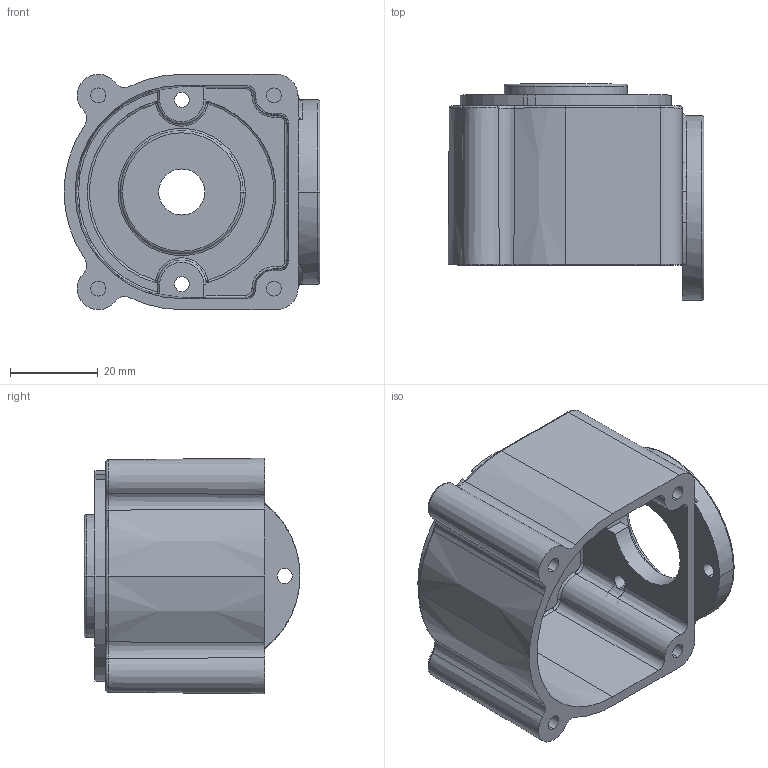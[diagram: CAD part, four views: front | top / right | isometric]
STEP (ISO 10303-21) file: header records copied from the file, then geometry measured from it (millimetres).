
FILE_DESCRIPTION (( 'STEP AP214' ), '1' );
FILE_NAME ('PRT0001.step', '2025-12-23T15:53:22', ( '' ), ( '' ), 'SwSTEP 2.0', 'SolidWorks 2026', '' );
FILE_SCHEMA (( 'AUTOMOTIVE_DESIGN' ));
Length unit declared in the file: inch
Products named in the file (1): PRT0001
Bounding box: 58.32 x 49.2 x 53.63 mm (x, y, z)
Volume: 34828.2 mm3; surface area: 21617.1 mm2
Topology: 1 solids, 1 shells, 175 faces, 445 edges, 271 vertices
Faces by surface type: cylinder 59, plane 36, torus 34, cone 26, bspline 16, sphere 4
Entity records: 6329 total; most frequent: CARTESIAN_POINT 2154, DIRECTION 911, ORIENTED_EDGE 854, EDGE_CURVE 427, AXIS2_PLACEMENT_3D 389, VERTEX_POINT 267, CIRCLE 229, EDGE_LOOP 202
